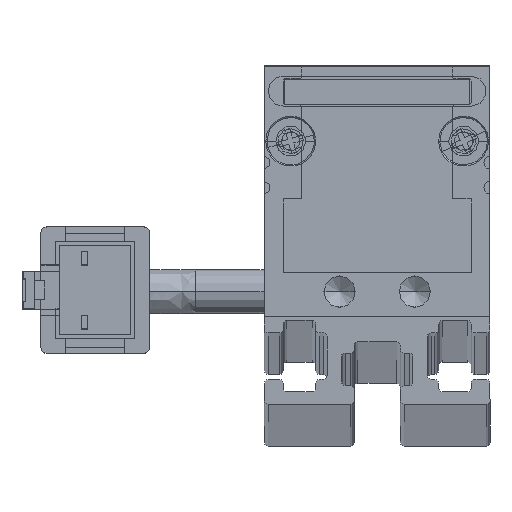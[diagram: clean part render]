
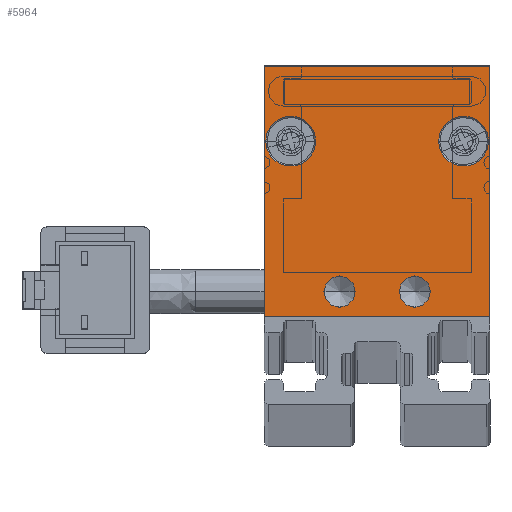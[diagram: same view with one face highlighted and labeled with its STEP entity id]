
A CAD part, top view. The second image highlights one B-rep face of the part: STEP entity #5964.
In plain terms, the highlighted planar face has unit normal (0, 0, 1) as drawn and (0, 0, -1) by its records, which use the part's own axes.
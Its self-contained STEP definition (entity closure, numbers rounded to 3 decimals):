
#539 = DIRECTION ( 'NONE',  ( 0., 0., -1. ) ) ;
#603 = DIRECTION ( 'NONE',  ( -1., 0., 0. ) ) ;
#743 = AXIS2_PLACEMENT_3D ( 'NONE', #4216, #10067, #5327 ) ;
#756 = LINE ( 'NONE', #6542, #10812 ) ;
#810 = VERTEX_POINT ( 'NONE', #7987 ) ;
#946 = AXIS2_PLACEMENT_3D ( 'NONE', #5636, #1609, #603 ) ;
#973 = VECTOR ( 'NONE', #2912, 1000. ) ;
#975 = FACE_BOUND ( 'NONE', #11606, .T. ) ;
#1089 = DIRECTION ( 'NONE',  ( 1., 0., 0. ) ) ;
#1185 = LINE ( 'NONE', #9947, #11397 ) ;
#1501 = CARTESIAN_POINT ( 'NONE',  ( 9., 20., -2.5 ) ) ;
#1609 = DIRECTION ( 'NONE',  ( 0., 0., -1. ) ) ;
#1755 = EDGE_CURVE ( 'NONE', #7411, #810, #11869, .T. ) ;
#1967 = EDGE_LOOP ( 'NONE', ( #9752, #4616, #11490, #4046 ) ) ;
#2032 = FACE_BOUND ( 'NONE', #8391, .T. ) ;
#2164 = AXIS2_PLACEMENT_3D ( 'NONE', #4067, #9723, #1089 ) ;
#2208 = EDGE_LOOP ( 'NONE', ( #10431, #6451 ) ) ;
#2450 = CARTESIAN_POINT ( 'NONE',  ( 9., 0., -2.5 ) ) ;
#2509 = DIRECTION ( 'NONE',  ( -1., 0., 0. ) ) ;
#2591 = ORIENTED_EDGE ( 'NONE', *, *, #9770, .F. ) ;
#2602 = EDGE_LOOP ( 'NONE', ( #11439, #10318 ) ) ;
#2612 = DIRECTION ( 'NONE',  ( -1., 0., 0. ) ) ;
#2618 = DIRECTION ( 'NONE',  ( -1., 0., 0. ) ) ;
#2680 = CIRCLE ( 'NONE', #9321, 1.25 ) ;
#2908 = CARTESIAN_POINT ( 'NONE',  ( -6.9, 14., -2.5 ) ) ;
#2912 = DIRECTION ( 'NONE',  ( 1., 0., 0. ) ) ;
#2995 = VERTEX_POINT ( 'NONE', #1501 ) ;
#3011 = DIRECTION ( 'NONE',  ( 0., -1., 0. ) ) ;
#3146 = CARTESIAN_POINT ( 'NONE',  ( -9., 20., -2.5 ) ) ;
#3211 = CARTESIAN_POINT ( 'NONE',  ( 1.75, 2., -2.5 ) ) ;
#3303 = VERTEX_POINT ( 'NONE', #7463 ) ;
#3586 = EDGE_CURVE ( 'NONE', #7244, #4049, #11999, .T. ) ;
#3790 = VECTOR ( 'NONE', #11732, 1000. ) ;
#4046 = ORIENTED_EDGE ( 'NONE', *, *, #6042, .F. ) ;
#4048 = LINE ( 'NONE', #3146, #3790 ) ;
#4049 = VERTEX_POINT ( 'NONE', #8569 ) ;
#4067 = CARTESIAN_POINT ( 'NONE',  ( 0., 0., -2.5 ) ) ;
#4216 = CARTESIAN_POINT ( 'NONE',  ( 3., 2., -2.5 ) ) ;
#4248 = VERTEX_POINT ( 'NONE', #2450 ) ;
#4314 = CIRCLE ( 'NONE', #9548, 1.25 ) ;
#4375 = EDGE_CURVE ( 'NONE', #4248, #2995, #756, .T. ) ;
#4512 = ORIENTED_EDGE ( 'NONE', *, *, #11583, .F. ) ;
#4616 = ORIENTED_EDGE ( 'NONE', *, *, #5569, .F. ) ;
#4705 = AXIS2_PLACEMENT_3D ( 'NONE', #7299, #9185, #2509 ) ;
#4759 = PLANE ( 'NONE',  #2164 ) ;
#4823 = AXIS2_PLACEMENT_3D ( 'NONE', #5322, #10307, #2618 ) ;
#4876 = DIRECTION ( 'NONE',  ( 0., 0., -1. ) ) ;
#4938 = CARTESIAN_POINT ( 'NONE',  ( -4.25, 2., -2.5 ) ) ;
#5322 = CARTESIAN_POINT ( 'NONE',  ( 6.9, 14., -2.5 ) ) ;
#5327 = DIRECTION ( 'NONE',  ( -1., 0., 0. ) ) ;
#5569 = EDGE_CURVE ( 'NONE', #2995, #12277, #4048, .T. ) ;
#5636 = CARTESIAN_POINT ( 'NONE',  ( -6.9, 14., -2.5 ) ) ;
#5691 = LINE ( 'NONE', #9544, #973 ) ;
#5780 = DIRECTION ( 'NONE',  ( 0., 1., 0. ) ) ;
#5871 = FACE_BOUND ( 'NONE', #2208, .T. ) ;
#5936 = CARTESIAN_POINT ( 'NONE',  ( 8.9, 14., -2.5 ) ) ;
#5937 = AXIS2_PLACEMENT_3D ( 'NONE', #2908, #4876, #8703 ) ;
#5964 = ADVANCED_FACE ( 'NONE', ( #10686, #975, #5871, #2032, #8770 ), #4759, .F. ) ;
#6042 = EDGE_CURVE ( 'NONE', #3303, #4248, #5691, .T. ) ;
#6451 = ORIENTED_EDGE ( 'NONE', *, *, #9790, .F. ) ;
#6453 = CARTESIAN_POINT ( 'NONE',  ( 3., 2., -2.5 ) ) ;
#6515 = CARTESIAN_POINT ( 'NONE',  ( -4.9, 14., -2.5 ) ) ;
#6542 = CARTESIAN_POINT ( 'NONE',  ( 9., 20., -2.5 ) ) ;
#6934 = ORIENTED_EDGE ( 'NONE', *, *, #11615, .F. ) ;
#7173 = EDGE_CURVE ( 'NONE', #810, #7411, #11876, .T. ) ;
#7244 = VERTEX_POINT ( 'NONE', #6515 ) ;
#7299 = CARTESIAN_POINT ( 'NONE',  ( -3., 2., -2.5 ) ) ;
#7370 = ORIENTED_EDGE ( 'NONE', *, *, #3586, .F. ) ;
#7411 = VERTEX_POINT ( 'NONE', #5936 ) ;
#7463 = CARTESIAN_POINT ( 'NONE',  ( -9., 0., -2.5 ) ) ;
#7987 = CARTESIAN_POINT ( 'NONE',  ( 4.9, 14., -2.5 ) ) ;
#8332 = DIRECTION ( 'NONE',  ( 0., 0., -1. ) ) ;
#8373 = VERTEX_POINT ( 'NONE', #11018 ) ;
#8391 = EDGE_LOOP ( 'NONE', ( #6934, #4512 ) ) ;
#8482 = CARTESIAN_POINT ( 'NONE',  ( -9., 20., -2.5 ) ) ;
#8569 = CARTESIAN_POINT ( 'NONE',  ( -8.9, 14., -2.5 ) ) ;
#8580 = EDGE_CURVE ( 'NONE', #12277, #3303, #1185, .T. ) ;
#8703 = DIRECTION ( 'NONE',  ( -1., 0., 0. ) ) ;
#8770 = FACE_OUTER_BOUND ( 'NONE', #1967, .T. ) ;
#9185 = DIRECTION ( 'NONE',  ( 0., 0., -1. ) ) ;
#9296 = EDGE_CURVE ( 'NONE', #12041, #11883, #10192, .T. ) ;
#9321 = AXIS2_PLACEMENT_3D ( 'NONE', #10580, #11651, #10708 ) ;
#9544 = CARTESIAN_POINT ( 'NONE',  ( -9., 0., -2.5 ) ) ;
#9548 = AXIS2_PLACEMENT_3D ( 'NONE', #6453, #8332, #2612 ) ;
#9723 = DIRECTION ( 'NONE',  ( 0., 0., 1. ) ) ;
#9752 = ORIENTED_EDGE ( 'NONE', *, *, #8580, .F. ) ;
#9770 = EDGE_CURVE ( 'NONE', #4049, #7244, #11822, .T. ) ;
#9790 = EDGE_CURVE ( 'NONE', #11883, #12041, #4314, .T. ) ;
#9947 = CARTESIAN_POINT ( 'NONE',  ( -9., 20., -2.5 ) ) ;
#9951 = VERTEX_POINT ( 'NONE', #4938 ) ;
#10067 = DIRECTION ( 'NONE',  ( 0., 0., -1. ) ) ;
#10113 = CARTESIAN_POINT ( 'NONE',  ( 6.9, 14., -2.5 ) ) ;
#10192 = CIRCLE ( 'NONE', #743, 1.25 ) ;
#10307 = DIRECTION ( 'NONE',  ( 0., 0., -1. ) ) ;
#10318 = ORIENTED_EDGE ( 'NONE', *, *, #1755, .F. ) ;
#10431 = ORIENTED_EDGE ( 'NONE', *, *, #9296, .F. ) ;
#10580 = CARTESIAN_POINT ( 'NONE',  ( -3., 2., -2.5 ) ) ;
#10686 = FACE_BOUND ( 'NONE', #2602, .T. ) ;
#10708 = DIRECTION ( 'NONE',  ( -1., 0., 0. ) ) ;
#10812 = VECTOR ( 'NONE', #5780, 1000. ) ;
#10870 = AXIS2_PLACEMENT_3D ( 'NONE', #10113, #539, #12083 ) ;
#11018 = CARTESIAN_POINT ( 'NONE',  ( -1.75, 2., -2.5 ) ) ;
#11110 = CARTESIAN_POINT ( 'NONE',  ( 4.25, 2., -2.5 ) ) ;
#11397 = VECTOR ( 'NONE', #3011, 1000. ) ;
#11439 = ORIENTED_EDGE ( 'NONE', *, *, #7173, .F. ) ;
#11490 = ORIENTED_EDGE ( 'NONE', *, *, #4375, .F. ) ;
#11552 = CIRCLE ( 'NONE', #4705, 1.25 ) ;
#11583 = EDGE_CURVE ( 'NONE', #8373, #9951, #11552, .T. ) ;
#11606 = EDGE_LOOP ( 'NONE', ( #2591, #7370 ) ) ;
#11615 = EDGE_CURVE ( 'NONE', #9951, #8373, #2680, .T. ) ;
#11651 = DIRECTION ( 'NONE',  ( 0., 0., -1. ) ) ;
#11732 = DIRECTION ( 'NONE',  ( -1., 0., 0. ) ) ;
#11822 = CIRCLE ( 'NONE', #946, 2. ) ;
#11869 = CIRCLE ( 'NONE', #4823, 2. ) ;
#11876 = CIRCLE ( 'NONE', #10870, 2. ) ;
#11883 = VERTEX_POINT ( 'NONE', #11110 ) ;
#11999 = CIRCLE ( 'NONE', #5937, 2. ) ;
#12041 = VERTEX_POINT ( 'NONE', #3211 ) ;
#12083 = DIRECTION ( 'NONE',  ( -1., 0., 0. ) ) ;
#12277 = VERTEX_POINT ( 'NONE', #8482 ) ;
